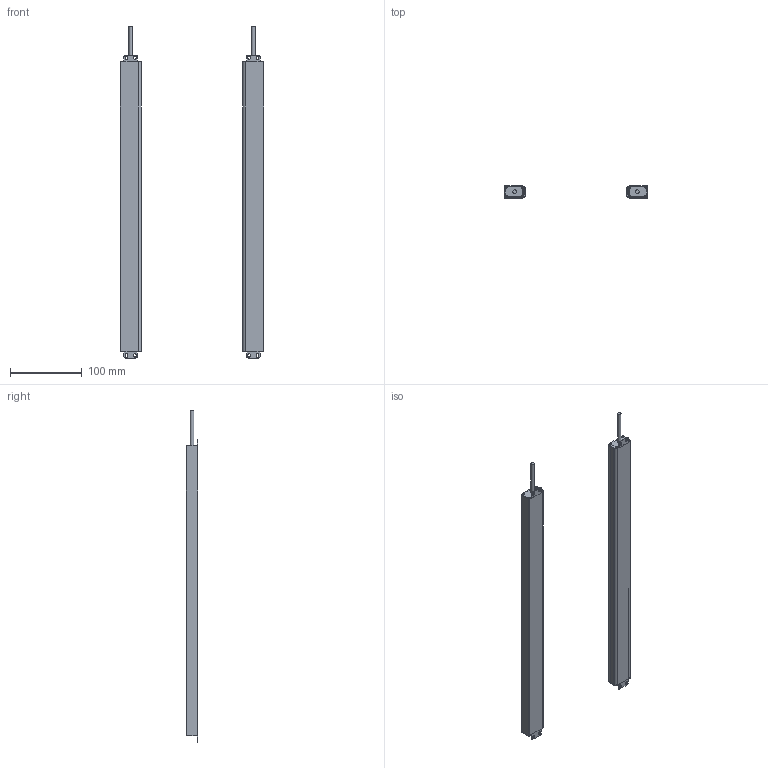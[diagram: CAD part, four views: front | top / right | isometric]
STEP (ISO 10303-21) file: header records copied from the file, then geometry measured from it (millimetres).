
FILE_DESCRIPTION(/* description */ (''),/* implementation_level */ '2;1');
FILE_NAME(/* name */ '2020（16X30ZW).stp',/* time_stamp */ '2020-07-14T19:10:13+08:00',/* author */ (''),/* organization */ (''),/* preprocessor_version */ 'ST-DEVELOPER v16',/* originating_system */ 'SIEMENS PLM Software NX 10.0',/* authorisation */ '');
FILE_SCHEMA (('AP203_CONFIGURATION_CONTROLLED_3D_DESIGN_OF_MECHANICAL_PARTS_AND_ASSEMBLIES_MIM_LF { 1 0 10303 403 2 1 2}'));
Length unit declared in the file: millimetre
Products named in the file (1): Admi58A03253m7ff
Bounding box: 200 x 16 x 461.5 mm (x, y, z)
Volume: 117623.1 mm3; surface area: 174163.9 mm2
Topology: 10 solids, 10 shells, 296 faces, 830 edges, 554 vertices
Faces by surface type: plane 160, cylinder 136
Full cylindrical faces by diameter (mm): 5 x2
Entity records: 9760 total; most frequent: DIRECTION 1692, CARTESIAN_POINT 1675, ORIENTED_EDGE 1652, EDGE_CURVE 826, AXIS2_PLACEMENT_3D 569, LINE 554, VECTOR 554, VERTEX_POINT 552
